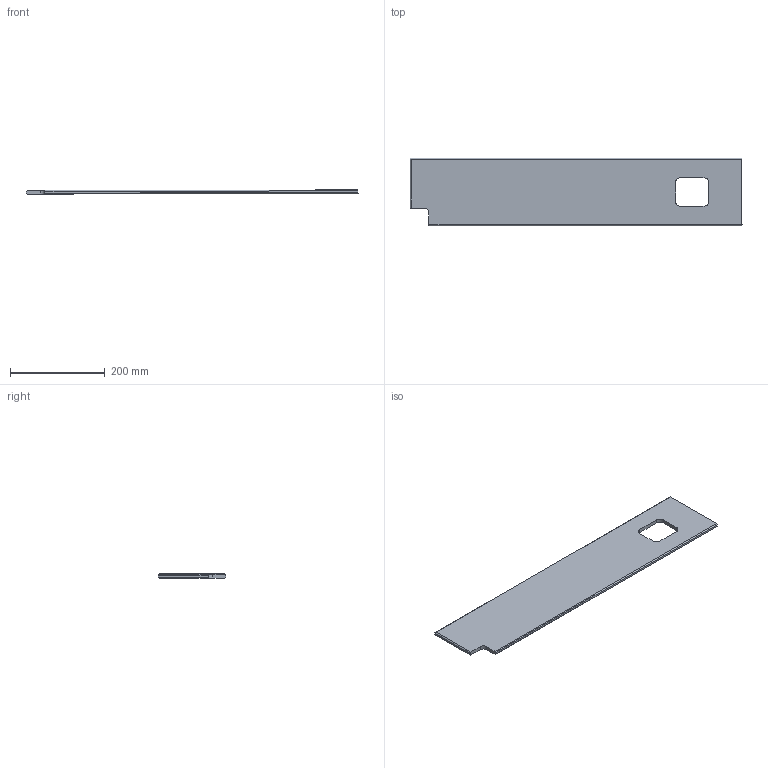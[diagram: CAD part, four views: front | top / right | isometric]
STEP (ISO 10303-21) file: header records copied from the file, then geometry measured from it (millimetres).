
FILE_DESCRIPTION (( 'STEP AP203' ), '1' );
FILE_NAME ('YYDK-500-0033-5 支架侧板3（500T）.step', '2026-03-04T03:13:01', ( 'Windows 用户' ), ( '' ), 'SwSTEP 2.0', 'SolidWorks 2020', '' );
FILE_SCHEMA (( 'CONFIG_CONTROL_DESIGN' ));
Length unit declared in the file: millimetre
Products named in the file (1): YYDK-500-0033-5 支架侧板3（500T）
Bounding box: 700.07 x 142 x 8.58 mm (x, y, z)
Volume: 743644.1 mm3; surface area: 199292.3 mm2
Topology: 1 solids, 1 shells, 24 faces, 64 edges, 42 vertices
Faces by surface type: plane 19, cylinder 5
Entity records: 823 total; most frequent: CARTESIAN_POINT 131, ORIENTED_EDGE 128, DIRECTION 124, EDGE_CURVE 64, VECTOR 54, LINE 54, VERTEX_POINT 42, AXIS2_PLACEMENT_3D 35
